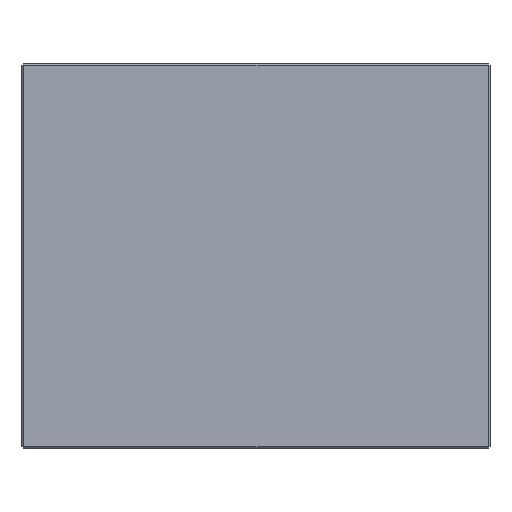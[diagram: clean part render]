
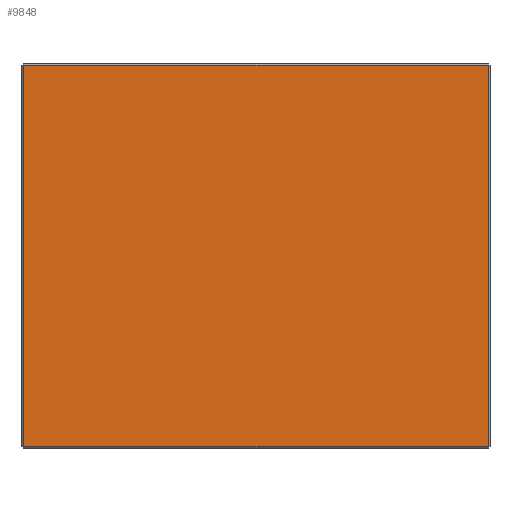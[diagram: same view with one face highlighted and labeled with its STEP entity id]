
A CAD part, front view. The second image highlights one B-rep face of the part: STEP entity #9848.
In plain terms, the highlighted planar face has unit normal (0, -1, 0).
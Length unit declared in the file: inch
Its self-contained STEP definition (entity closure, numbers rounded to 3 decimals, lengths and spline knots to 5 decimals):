
#171 = ORIENTED_EDGE ( 'NONE', *, *, #8258, .T. ) ;
#533 = VERTEX_POINT ( 'NONE', #12658 ) ;
#874 = LINE ( 'NONE', #6385, #3602 ) ;
#964 = PLANE ( 'NONE',  #2695 ) ;
#1681 = EDGE_CURVE ( 'NONE', #9238, #13308, #874, .T. ) ;
#1981 = DIRECTION ( 'NONE',  ( 0., 0., 1. ) ) ;
#2537 = FACE_OUTER_BOUND ( 'NONE', #3767, .T. ) ;
#2695 = AXIS2_PLACEMENT_3D ( 'NONE', #5067, #8178, #1981 ) ;
#2698 = ORIENTED_EDGE ( 'NONE', *, *, #5345, .T. ) ;
#2737 = CARTESIAN_POINT ( 'NONE',  ( -1.35, -1.7425, 0. ) ) ;
#2992 = ORIENTED_EDGE ( 'NONE', *, *, #1681, .T. ) ;
#3406 = VECTOR ( 'NONE', #13179, 39.37008 ) ;
#3602 = VECTOR ( 'NONE', #4299, 39.37008 ) ;
#3767 = EDGE_LOOP ( 'NONE', ( #7652, #2992, #171, #2698 ) ) ;
#3826 = EDGE_CURVE ( 'NONE', #7069, #9238, #8617, .T. ) ;
#3867 = VECTOR ( 'NONE', #9276, 39.37008 ) ;
#4231 = CARTESIAN_POINT ( 'NONE',  ( -1.35, -1.7425, 2.225 ) ) ;
#4299 = DIRECTION ( 'NONE',  ( 1., 0., 0. ) ) ;
#5067 = CARTESIAN_POINT ( 'NONE',  ( 0., -1.7425, 2.235 ) ) ;
#5345 = EDGE_CURVE ( 'NONE', #533, #7069, #11363, .T. ) ;
#6191 = VECTOR ( 'NONE', #13272, 39.37008 ) ;
#6385 = CARTESIAN_POINT ( 'NONE',  ( 0., -1.7425, 0.01 ) ) ;
#6437 = CARTESIAN_POINT ( 'NONE',  ( 1.35, -1.7425, 0.01 ) ) ;
#7069 = VERTEX_POINT ( 'NONE', #4231 ) ;
#7412 = CARTESIAN_POINT ( 'NONE',  ( -1.35, -1.7425, 0.01 ) ) ;
#7652 = ORIENTED_EDGE ( 'NONE', *, *, #3826, .T. ) ;
#7941 = CARTESIAN_POINT ( 'NONE',  ( -1.36, -1.7425, 2.225 ) ) ;
#8178 = DIRECTION ( 'NONE',  ( 0., 1., 0. ) ) ;
#8210 = CARTESIAN_POINT ( 'NONE',  ( 1.35, -1.7425, 2.235 ) ) ;
#8258 = EDGE_CURVE ( 'NONE', #13308, #533, #9056, .T. ) ;
#8617 = LINE ( 'NONE', #2737, #6191 ) ;
#9056 = LINE ( 'NONE', #8210, #3867 ) ;
#9238 = VERTEX_POINT ( 'NONE', #7412 ) ;
#9276 = DIRECTION ( 'NONE',  ( 0., 0., 1. ) ) ;
#9848 = ADVANCED_FACE ( 'NONE', ( #2537 ), #964, .F. ) ;
#11363 = LINE ( 'NONE', #7941, #3406 ) ;
#12658 = CARTESIAN_POINT ( 'NONE',  ( 1.35, -1.7425, 2.225 ) ) ;
#13179 = DIRECTION ( 'NONE',  ( -1., 0., 0. ) ) ;
#13272 = DIRECTION ( 'NONE',  ( 0., 0., -1. ) ) ;
#13308 = VERTEX_POINT ( 'NONE', #6437 ) ;
